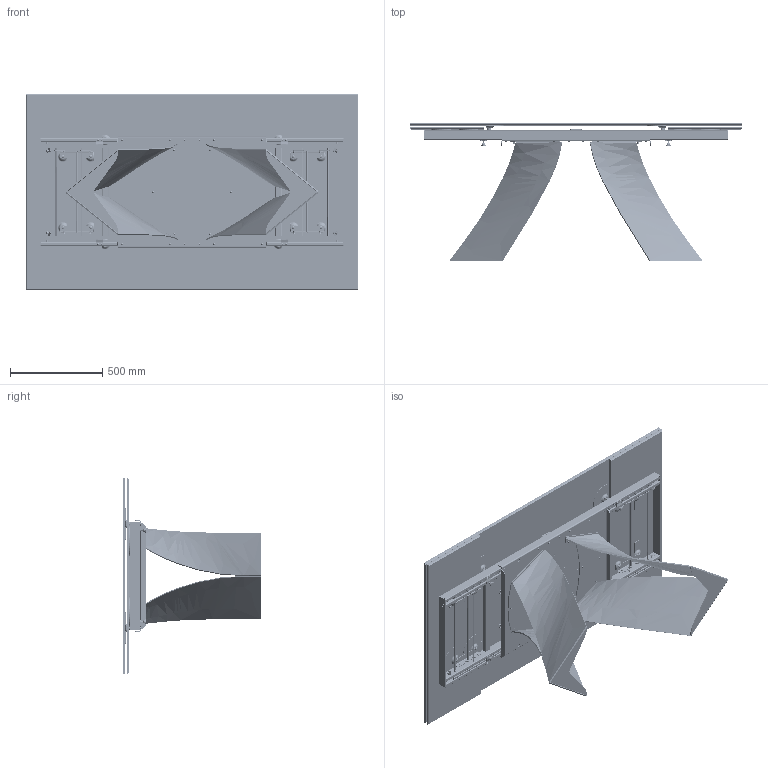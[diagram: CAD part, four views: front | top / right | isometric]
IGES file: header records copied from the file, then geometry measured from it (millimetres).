
Start section: SolidWorks IGES file using analytic representation for surfaces
Global section: file name: Y:\eforma\TECNICO\SOLIDWORKS\E-FORMA\1-TAVOLI\TWIST ALLUNGABILE\08 modelli 3D web\TW31G_Twist 180-260_Close_Ceramic.IGS; native system: SolidWorks 2022; preprocessor: SolidWorks 2022; author: eforma.tech; date: 240801.154811; units: millimetre
Bounding box: 1800 x 749.5 x 1060 mm (x, y, z)
Volume: 48657402.1 mm3; surface area: 18210573.6 mm2
Topology: 53 solids, 53 shells, 8782 faces, 90598 edges, 89262 vertices
Faces by surface type: revolution 4678, bspline 3582, plane 522
